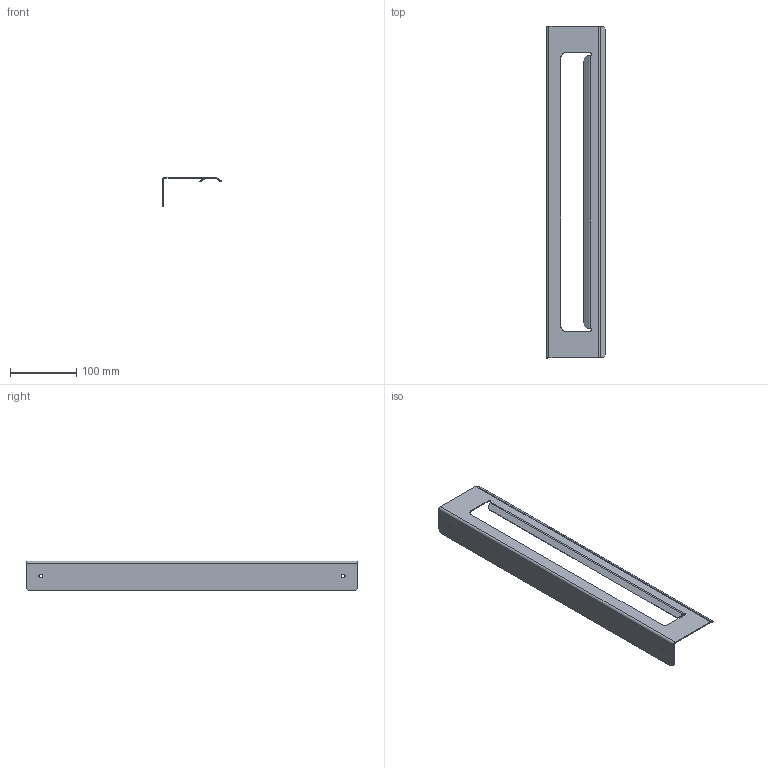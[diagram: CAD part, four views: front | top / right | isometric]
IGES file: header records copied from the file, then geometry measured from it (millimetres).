
Start section: IGES file generated by C3D Converter 1.5 translator by C3D Labs., translator version IGESOUT-5.1.
Global section: file name: D:\×åðòåæè èçäåëèé Âàííà 2023\Ïîëêè Simple Íîâûå\3D\×åðòåæè 22.07.2023\3D\S²MPLE_2_RLNG_500.igs; preprocessor: 1.0; author: a.kalenyk83@gmail.com; organization: unknown; date: -17770622:112341; units: millimetre
Bounding box: 88.5 x 500 x 45 mm (x, y, z)
Volume: 77738.9 mm3; surface area: 106999.1 mm2
Topology: 1 solids, 1 shells, 50 faces, 120 edges, 72 vertices
Faces by surface type: bspline 30, revolution 20
